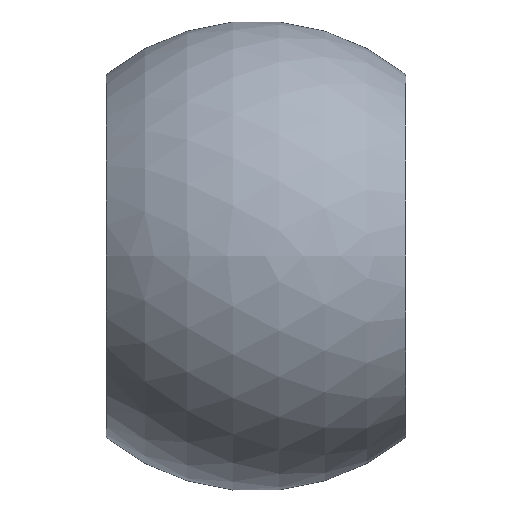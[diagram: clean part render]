
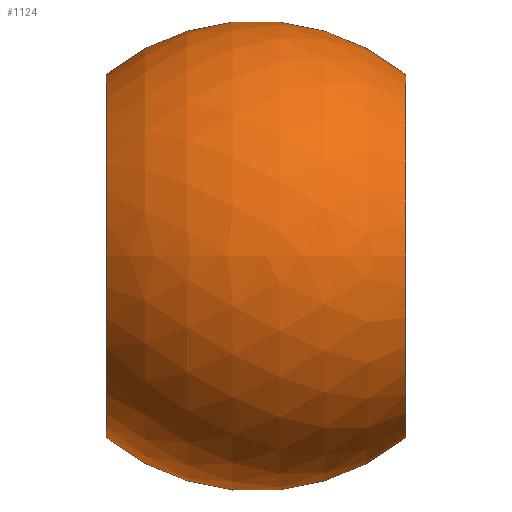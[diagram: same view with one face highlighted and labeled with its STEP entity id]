
A CAD part, left-side view. The second image highlights one B-rep face of the part: STEP entity #1124.
In plain terms, the highlighted spherical face has radius 55 mm.
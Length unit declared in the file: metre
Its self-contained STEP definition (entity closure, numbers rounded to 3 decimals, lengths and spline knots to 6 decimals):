
#1124=ADVANCED_FACE('',(#2492,#2493),#2494,.T.);
#2492=FACE_OUTER_BOUND('',#4117,.T.);
#2493=FACE_OUTER_BOUND('',#4118,.T.);
#2494=SPHERICAL_SURFACE('',#4119,0.055);
#4117=EDGE_LOOP('',(#6066));
#4118=EDGE_LOOP('',(#6067));
#4119=AXIS2_PLACEMENT_3D('',#6068,#6069,#6070);
#6066=ORIENTED_EDGE('',*,*,#7184,.T.);
#6067=ORIENTED_EDGE('',*,*,#7149,.F.);
#6068=CARTESIAN_POINT('',(0.756754,0.470769,0.));
#6069=DIRECTION('',(0.,1.0,0.0));
#6070=DIRECTION('',(-1.0,0.,0.0));
#7149=EDGE_CURVE('',#8154,#8154,#8155,.T.);
#7184=EDGE_CURVE('',#8210,#8210,#8211,.T.);
#8154=VERTEX_POINT('',#9254);
#8155=CIRCLE('',#9255,0.042426);
#8210=VERTEX_POINT('',#9310);
#8211=CIRCLE('',#9311,0.042426);
#9254=CARTESIAN_POINT('',(0.714328,0.505769,0.0));
#9255=AXIS2_PLACEMENT_3D('',#10445,#10446,#10447);
#9310=CARTESIAN_POINT('',(0.714328,0.435769,0.0));
#9311=AXIS2_PLACEMENT_3D('',#10508,#10509,#10510);
#10445=CARTESIAN_POINT('',(0.756754,0.505769,0.0));
#10446=DIRECTION('',(0.,1.0,0.0));
#10447=DIRECTION('',(-1.0,0.,0.0));
#10508=CARTESIAN_POINT('',(0.756754,0.435769,0.0));
#10509=DIRECTION('',(0.,1.0,0.0));
#10510=DIRECTION('',(-1.0,0.,0.0));
